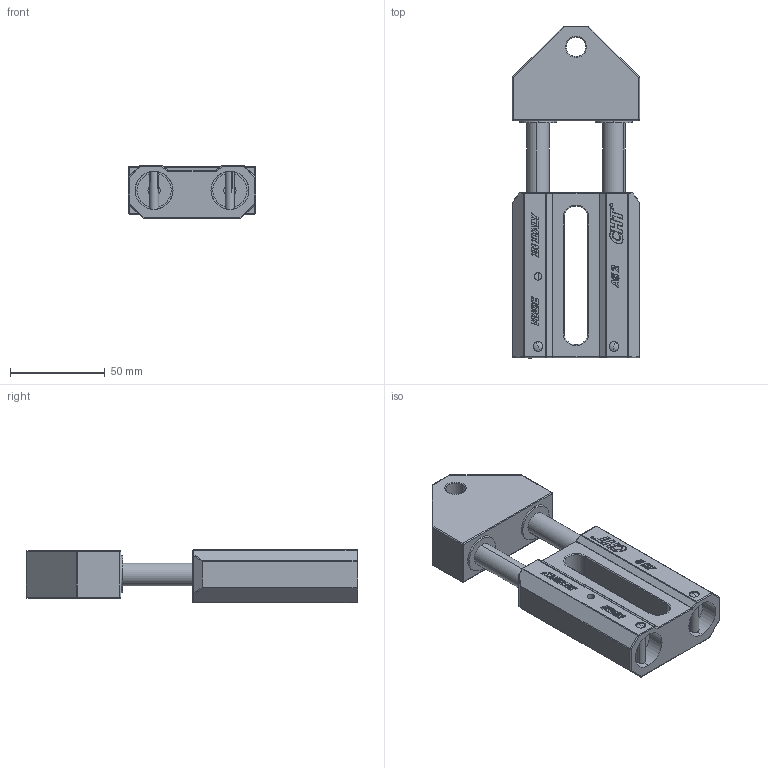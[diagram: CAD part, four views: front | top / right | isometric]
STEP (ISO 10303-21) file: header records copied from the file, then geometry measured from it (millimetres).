
FILE_DESCRIPTION (( 'STEP AP203' ), '1' );
FILE_NAME ('AS2 M12 cod. 94022012N.STEP', '2018-05-12T09:33:15', ( '' ), ( '' ), 'SwSTEP 2.0', 'SolidWorks 2016', '' );
FILE_SCHEMA (( 'CONFIG_CONTROL_DESIGN' ));
Length unit declared in the file: millimetre
Products named in the file (8): Rondella ISO 7093 - 6_Rondella ISO 7093 - 6; AS 2-Base; ISO 8745-M5x28-St_ISO 8745-M5x28-St; AS2 M12 cod. 94022012N; Boccola 12X14X15; Rondella 19.5X10.5X2 (SOTTO TESTA); Testa AS 2 2016- M12; Colonnetta AS2 comm.
Assembly tree (12 placements, depth 2):
  AS2 M12 cod. 94022012N
    AS 2-Base
    Boccola 12X14X15  x2
    Colonnetta AS2 comm.  x2
    Testa AS 2 2016- M12
    Rondella 19.5X10.5X2 (SOTTO TESTA)  x2
    ISO 8745-M5x28-St_ISO 8745-M5x28-St  x2
    Rondella ISO 7093 - 6_Rondella ISO 7093 - 6  x2
Bounding box: 67 x 175 x 28.3 mm (x, y, z)
Volume: 169276.9 mm3; surface area: 58013.8 mm2
Topology: 12 solids, 12 shells, 725 faces, 1705 edges, 991 vertices
Faces by surface type: cylinder 304, plane 243, bspline 98, sphere 50, cone 16, torus 14
Entity records: 24303 total; most frequent: CARTESIAN_POINT 9072, ORIENTED_EDGE 3136, DIRECTION 2677, EDGE_CURVE 1568, VERTEX_POINT 924, AXIS2_PLACEMENT_3D 898, VECTOR 881, LINE 881
